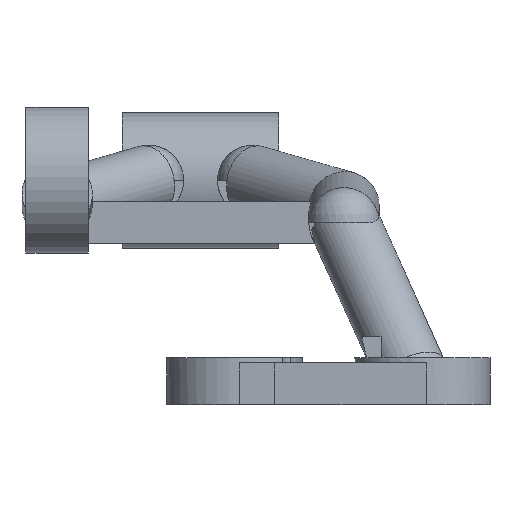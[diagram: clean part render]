
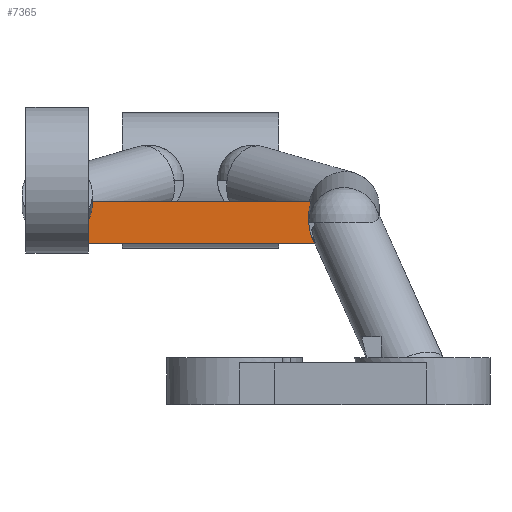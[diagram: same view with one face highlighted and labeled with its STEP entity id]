
A CAD part, front view. The second image highlights one B-rep face of the part: STEP entity #7365.
In plain terms, the highlighted planar face has unit normal (0, -1, 0).
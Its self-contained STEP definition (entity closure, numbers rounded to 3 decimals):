
#1881 = CYLINDRICAL_SURFACE('',#1882,1.35);
#1882 = AXIS2_PLACEMENT_3D('',#1883,#1884,#1885);
#1883 = CARTESIAN_POINT('',(5.5,37.,17.38));
#1884 = DIRECTION('',(-0.,0.995,0.103));
#1885 = DIRECTION('',(-0.,-0.103,0.995));
#2816 = VERTEX_POINT('',#2817);
#2817 = CARTESIAN_POINT('',(4.241,40.,18.18));
#2835 = PLANE('',#2836);
#2836 = AXIS2_PLACEMENT_3D('',#2837,#2838,#2839);
#2837 = CARTESIAN_POINT('',(4.75,40.,18.18));
#2838 = DIRECTION('',(0.,0.,1.));
#2839 = DIRECTION('',(1.,0.,-0.));
#2851 = EDGE_CURVE('',#2816,#2852,#2854,.T.);
#2852 = VERTEX_POINT('',#2853);
#2853 = CARTESIAN_POINT('',(4.723,40.,16.58));
#2854 = SURFACE_CURVE('',#2855,(#2860,#2872),.PCURVE_S1.);
#2855 = ELLIPSE('',#2856,1.357,1.35);
#2856 = AXIS2_PLACEMENT_3D('',#2857,#2858,#2859);
#2857 = CARTESIAN_POINT('',(5.5,40.,17.69));
#2858 = DIRECTION('',(0.,-1.,0.));
#2859 = DIRECTION('',(-0.,0.,1.));
#2860 = PCURVE('',#1881,#2861);
#2861 = DEFINITIONAL_REPRESENTATION('',(#2862),#2871);
#2862 = B_SPLINE_CURVE_WITH_KNOTS('',7,(#2863,#2864,#2865,#2866,#2867,
    #2868,#2869,#2870),.UNSPECIFIED.,.F.,.F.,(8,8),(1.071,
    2.781),.PIECEWISE_BEZIER_KNOTS.);
#2863 = CARTESIAN_POINT('',(5.212,3.083));
#2864 = CARTESIAN_POINT('',(4.968,3.053));
#2865 = CARTESIAN_POINT('',(4.723,3.018));
#2866 = CARTESIAN_POINT('',(4.479,2.982));
#2867 = CARTESIAN_POINT('',(4.235,2.948));
#2868 = CARTESIAN_POINT('',(3.991,2.919));
#2869 = CARTESIAN_POINT('',(3.746,2.897));
#2870 = CARTESIAN_POINT('',(3.502,2.885));
#2871 = ( GEOMETRIC_REPRESENTATION_CONTEXT(2) 
PARAMETRIC_REPRESENTATION_CONTEXT() REPRESENTATION_CONTEXT('2D SPACE',''
  ) );
#2872 = PCURVE('',#2873,#2878);
#2873 = PLANE('',#2874);
#2874 = AXIS2_PLACEMENT_3D('',#2875,#2876,#2877);
#2875 = CARTESIAN_POINT('',(4.75,40.,16.58));
#2876 = DIRECTION('',(-0.,1.,0.));
#2877 = DIRECTION('',(0.,0.,-1.));
#2878 = DEFINITIONAL_REPRESENTATION('',(#2879),#2887);
#2879 = ( BOUNDED_CURVE() B_SPLINE_CURVE(2,(#2880,#2881,#2882,#2883,
#2884,#2885,#2886),.UNSPECIFIED.,.T.,.F.) B_SPLINE_CURVE_WITH_KNOTS((1,2
    ,2,2,2,1),(-2.094,0.,2.094,4.189,
6.283,8.378),.UNSPECIFIED.) CURVE() 
GEOMETRIC_REPRESENTATION_ITEM() RATIONAL_B_SPLINE_CURVE((1.,0.5,1.,0.5,
1.,0.5,1.)) REPRESENTATION_ITEM('') );
#2880 = CARTESIAN_POINT('',(-2.467,-0.75));
#2881 = CARTESIAN_POINT('',(-2.467,1.588));
#2882 = CARTESIAN_POINT('',(-0.431,0.419));
#2883 = CARTESIAN_POINT('',(1.604,-0.75));
#2884 = CARTESIAN_POINT('',(-0.431,-1.919));
#2885 = CARTESIAN_POINT('',(-2.467,-3.088));
#2886 = CARTESIAN_POINT('',(-2.467,-0.75));
#2887 = ( GEOMETRIC_REPRESENTATION_CONTEXT(2) 
PARAMETRIC_REPRESENTATION_CONTEXT() REPRESENTATION_CONTEXT('2D SPACE',''
  ) );
#2910 = PLANE('',#2911);
#2911 = AXIS2_PLACEMENT_3D('',#2912,#2913,#2914);
#2912 = CARTESIAN_POINT('',(4.75,40.,16.58));
#2913 = DIRECTION('',(0.,0.,1.));
#2914 = DIRECTION('',(1.,0.,-0.));
#3666 = PLANE('',#3667);
#3667 = AXIS2_PLACEMENT_3D('',#3668,#3669,#3670);
#3668 = CARTESIAN_POINT('',(-4.75,40.,16.58));
#3669 = DIRECTION('',(-1.,-0.,0.));
#3670 = DIRECTION('',(-0.,0.,-1.));
#3703 = EDGE_CURVE('',#3704,#3706,#3708,.T.);
#3704 = VERTEX_POINT('',#3705);
#3705 = CARTESIAN_POINT('',(-4.75,40.,16.58));
#3706 = VERTEX_POINT('',#3707);
#3707 = CARTESIAN_POINT('',(-4.75,40.,16.977));
#3708 = SURFACE_CURVE('',#3709,(#3713,#3720),.PCURVE_S1.);
#3709 = LINE('',#3710,#3711);
#3710 = CARTESIAN_POINT('',(-4.75,40.,16.58));
#3711 = VECTOR('',#3712,1.);
#3712 = DIRECTION('',(0.,0.,1.));
#3713 = PCURVE('',#3666,#3714);
#3714 = DEFINITIONAL_REPRESENTATION('',(#3715),#3719);
#3715 = LINE('',#3716,#3717);
#3716 = CARTESIAN_POINT('',(0.,0.));
#3717 = VECTOR('',#3718,1.);
#3718 = DIRECTION('',(-1.,0.));
#3719 = ( GEOMETRIC_REPRESENTATION_CONTEXT(2) 
PARAMETRIC_REPRESENTATION_CONTEXT() REPRESENTATION_CONTEXT('2D SPACE',''
  ) );
#3720 = PCURVE('',#2873,#3721);
#3721 = DEFINITIONAL_REPRESENTATION('',(#3722),#3726);
#3722 = LINE('',#3723,#3724);
#3723 = CARTESIAN_POINT('',(0.,9.5));
#3724 = VECTOR('',#3725,1.);
#3725 = DIRECTION('',(-1.,0.));
#3726 = ( GEOMETRIC_REPRESENTATION_CONTEXT(2) 
PARAMETRIC_REPRESENTATION_CONTEXT() REPRESENTATION_CONTEXT('2D SPACE',''
  ) );
#3795 = CYLINDRICAL_SURFACE('',#3796,1.35);
#3796 = AXIS2_PLACEMENT_3D('',#3797,#3798,#3799);
#3797 = CARTESIAN_POINT('',(-5.5,28.,18.5));
#3798 = DIRECTION('',(-0.,0.999,-0.033));
#3799 = DIRECTION('',(0.,0.033,0.999));
#4624 = EDGE_CURVE('',#3706,#4625,#4627,.T.);
#4625 = VERTEX_POINT('',#4626);
#4626 = CARTESIAN_POINT('',(-4.152,40.,18.18));
#4627 = SURFACE_CURVE('',#4628,(#4633,#4645),.PCURVE_S1.);
#4628 = ELLIPSE('',#4629,1.351,1.35);
#4629 = AXIS2_PLACEMENT_3D('',#4630,#4631,#4632);
#4630 = CARTESIAN_POINT('',(-5.5,40.,18.1));
#4631 = DIRECTION('',(0.,-1.,0.));
#4632 = DIRECTION('',(-0.,-0.,-1.));
#4633 = PCURVE('',#3795,#4634);
#4634 = DEFINITIONAL_REPRESENTATION('',(#4635),#4644);
#4635 = B_SPLINE_CURVE_WITH_KNOTS('',7,(#4636,#4637,#4638,#4639,#4640,
    #4641,#4642,#4643),.UNSPECIFIED.,.F.,.F.,(8,8),(0.589,
    1.63),.PIECEWISE_BEZIER_KNOTS.);
#4636 = CARTESIAN_POINT('',(2.553,12.044));
#4637 = CARTESIAN_POINT('',(2.404,12.04));
#4638 = CARTESIAN_POINT('',(2.255,12.036));
#4639 = CARTESIAN_POINT('',(2.106,12.03));
#4640 = CARTESIAN_POINT('',(1.958,12.024));
#4641 = CARTESIAN_POINT('',(1.809,12.017));
#4642 = CARTESIAN_POINT('',(1.66,12.011));
#4643 = CARTESIAN_POINT('',(1.512,12.004));
#4644 = ( GEOMETRIC_REPRESENTATION_CONTEXT(2) 
PARAMETRIC_REPRESENTATION_CONTEXT() REPRESENTATION_CONTEXT('2D SPACE',''
  ) );
#4645 = PCURVE('',#2873,#4646);
#4646 = DEFINITIONAL_REPRESENTATION('',(#4647),#4655);
#4647 = ( BOUNDED_CURVE() B_SPLINE_CURVE(2,(#4648,#4649,#4650,#4651,
#4652,#4653,#4654),.UNSPECIFIED.,.T.,.F.) B_SPLINE_CURVE_WITH_KNOTS((1,2
    ,2,2,2,1),(-2.094,0.,2.094,4.189,
6.283,8.378),.UNSPECIFIED.) CURVE() 
GEOMETRIC_REPRESENTATION_ITEM() RATIONAL_B_SPLINE_CURVE((1.,0.5,1.,0.5,
1.,0.5,1.)) REPRESENTATION_ITEM('') );
#4648 = CARTESIAN_POINT('',(-0.169,10.25));
#4649 = CARTESIAN_POINT('',(-0.169,7.912));
#4650 = CARTESIAN_POINT('',(-2.195,9.081));
#4651 = CARTESIAN_POINT('',(-4.221,10.25));
#4652 = CARTESIAN_POINT('',(-2.195,11.419));
#4653 = CARTESIAN_POINT('',(-0.169,12.588));
#4654 = CARTESIAN_POINT('',(-0.169,10.25));
#4655 = ( GEOMETRIC_REPRESENTATION_CONTEXT(2) 
PARAMETRIC_REPRESENTATION_CONTEXT() REPRESENTATION_CONTEXT('2D SPACE',''
  ) );
#7343 = EDGE_CURVE('',#2852,#3704,#7344,.T.);
#7344 = SURFACE_CURVE('',#7345,(#7349,#7356),.PCURVE_S1.);
#7345 = LINE('',#7346,#7347);
#7346 = CARTESIAN_POINT('',(4.75,40.,16.58));
#7347 = VECTOR('',#7348,1.);
#7348 = DIRECTION('',(-1.,-0.,0.));
#7349 = PCURVE('',#2910,#7350);
#7350 = DEFINITIONAL_REPRESENTATION('',(#7351),#7355);
#7351 = LINE('',#7352,#7353);
#7352 = CARTESIAN_POINT('',(0.,0.));
#7353 = VECTOR('',#7354,1.);
#7354 = DIRECTION('',(-1.,0.));
#7355 = ( GEOMETRIC_REPRESENTATION_CONTEXT(2) 
PARAMETRIC_REPRESENTATION_CONTEXT() REPRESENTATION_CONTEXT('2D SPACE',''
  ) );
#7356 = PCURVE('',#2873,#7357);
#7357 = DEFINITIONAL_REPRESENTATION('',(#7358),#7362);
#7358 = LINE('',#7359,#7360);
#7359 = CARTESIAN_POINT('',(0.,0.));
#7360 = VECTOR('',#7361,1.);
#7361 = DIRECTION('',(-0.,1.));
#7362 = ( GEOMETRIC_REPRESENTATION_CONTEXT(2) 
PARAMETRIC_REPRESENTATION_CONTEXT() REPRESENTATION_CONTEXT('2D SPACE',''
  ) );
#7365 = ADVANCED_FACE('',(#7366),#2873,.F.);
#7366 = FACE_BOUND('',#7367,.T.);
#7367 = EDGE_LOOP('',(#7368,#7369,#7370,#7391,#7392));
#7368 = ORIENTED_EDGE('',*,*,#7343,.F.);
#7369 = ORIENTED_EDGE('',*,*,#2851,.F.);
#7370 = ORIENTED_EDGE('',*,*,#7371,.T.);
#7371 = EDGE_CURVE('',#2816,#4625,#7372,.T.);
#7372 = SURFACE_CURVE('',#7373,(#7377,#7384),.PCURVE_S1.);
#7373 = LINE('',#7374,#7375);
#7374 = CARTESIAN_POINT('',(4.75,40.,18.18));
#7375 = VECTOR('',#7376,1.);
#7376 = DIRECTION('',(-1.,-0.,0.));
#7377 = PCURVE('',#2873,#7378);
#7378 = DEFINITIONAL_REPRESENTATION('',(#7379),#7383);
#7379 = LINE('',#7380,#7381);
#7380 = CARTESIAN_POINT('',(-1.6,0.));
#7381 = VECTOR('',#7382,1.);
#7382 = DIRECTION('',(-0.,1.));
#7383 = ( GEOMETRIC_REPRESENTATION_CONTEXT(2) 
PARAMETRIC_REPRESENTATION_CONTEXT() REPRESENTATION_CONTEXT('2D SPACE',''
  ) );
#7384 = PCURVE('',#2835,#7385);
#7385 = DEFINITIONAL_REPRESENTATION('',(#7386),#7390);
#7386 = LINE('',#7387,#7388);
#7387 = CARTESIAN_POINT('',(0.,0.));
#7388 = VECTOR('',#7389,1.);
#7389 = DIRECTION('',(-1.,0.));
#7390 = ( GEOMETRIC_REPRESENTATION_CONTEXT(2) 
PARAMETRIC_REPRESENTATION_CONTEXT() REPRESENTATION_CONTEXT('2D SPACE',''
  ) );
#7391 = ORIENTED_EDGE('',*,*,#4624,.F.);
#7392 = ORIENTED_EDGE('',*,*,#3703,.F.);
